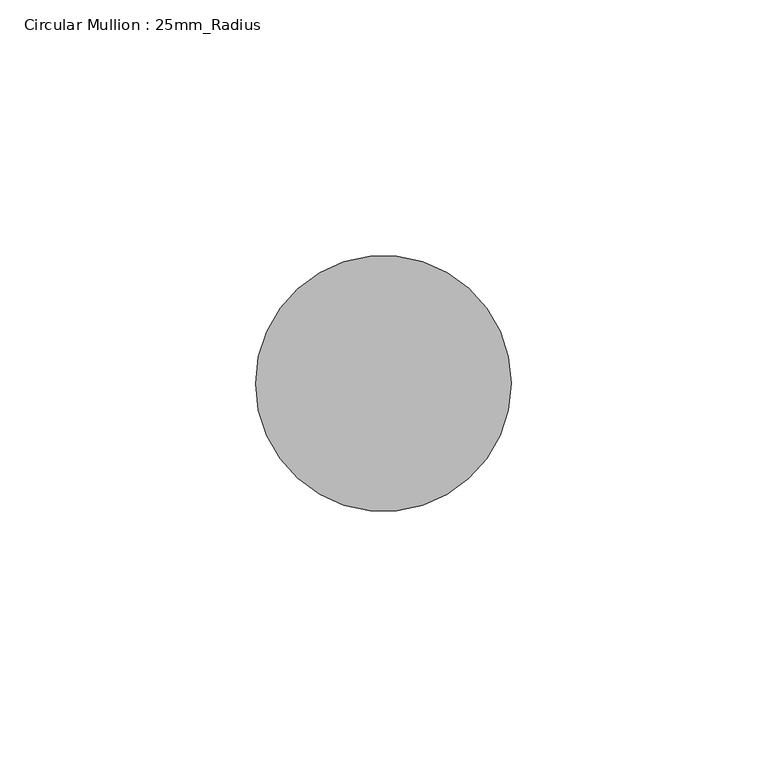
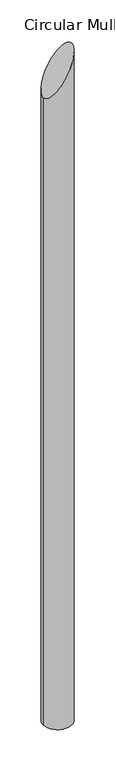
"""IFC4 building model written with IfcOpenShell, lengths in millimetres: member geometry, Circular Mullion : 25mm_Radius."""

import ifcopenshell
import ifcopenshell.guid

model = None  # the IFC model being written
_history = None  # IfcOwnerHistory: only IFC2X3 demands one
_inside = {}  # id of a spatial element -> (the spatial element, [elements in it])
_under = {}  # id of a project, library or spatial element -> (it, [spatial elements below it])
_declared = {}  # id of a project -> (the project, [libraries it declares])
_typed = {}  # id of a type object -> (the type object, [elements of that type])
_made_of = {}  # id of a material, layer set ... -> (it, [elements and type objects made of it])


def new_model(schema):
    """Start an empty IFC model of exactly this schema.

    Asked for "IFC4X3", IfcOpenShell would pick the latest addendum, in which some entities
    have other attributes; the version numbers below select the first issue.
    IFC2X3 requires an IfcOwnerHistory on every rooted entity: one is made here for all.
    """
    global model, _history
    if schema == "IFC4X3":
        model = ifcopenshell.file(schema_version=(4, 3, 0, 0))
    else:
        model = ifcopenshell.file(schema=schema)
    _inside.clear()
    _under.clear()
    _declared.clear()
    _typed.clear()
    _made_of.clear()
    _history = None
    if model.schema == "IFC2X3":
        org = make("IfcOrganization", Name="unknown")
        user = make(
            "IfcPersonAndOrganization",
            ThePerson=make("IfcPerson", FamilyName="unknown"),
            TheOrganization=org,
        )
        app = make(
            "IfcApplication",
            ApplicationDeveloper=org,
            Version="unknown",
            ApplicationFullName="unknown",
            ApplicationIdentifier="unknown",
        )
        _history = make(
            "IfcOwnerHistory",
            OwningUser=user,
            OwningApplication=app,
            ChangeAction="ADDED",
            CreationDate=0,
        )
    return model


def make(cls, **values):
    """One entity of the class cls with the attributes given. An attribute that is None is left unset."""
    return model.create_entity(
        cls, **{name: value for name, value in values.items() if value is not None}
    )


def rooted(cls, **values):
    """An entity with a GlobalId (a new one), such as an element, a storey or a relation."""
    return make(cls, GlobalId=ifcopenshell.guid.new(), OwnerHistory=_history, **values)


def si_unit(unit_type, name, prefix=None):
    """IfcSIUnit, for example si_unit("LENGTHUNIT", "METRE", prefix="MILLI")."""
    return make("IfcSIUnit", UnitType=unit_type, Prefix=prefix, Name=name)


def assignment(units):
    """IfcUnitAssignment: the units of a project."""
    return None if units is None else make("IfcUnitAssignment", Units=units)


def point(xyz):
    """IfcCartesianPoint."""
    return None if xyz is None else make("IfcCartesianPoint", Coordinates=xyz)


def direction(xyz):
    """IfcDirection."""
    return None if xyz is None else make("IfcDirection", DirectionRatios=xyz)


def frame(location, z_axis=None, x_axis=None):
    """IfcAxis2Placement3D, a coordinate frame: its origin and axes. An axis left out is left unset."""
    return make(
        "IfcAxis2Placement3D",
        Location=point(location),
        Axis=direction(z_axis),
        RefDirection=direction(x_axis),
    )


def origin():
    """The frame at (0, 0, 0) with its axes left unset."""
    return frame((0.0, 0.0, 0.0))


def place(relative_to, where):
    """IfcLocalPlacement: puts the frame where relative to a parent placement (None: the world)."""
    return make(
        "IfcLocalPlacement", PlacementRelTo=relative_to, RelativePlacement=where
    )


def context(
    kind, dimensions, precision=None, world=None, true_north=None, identifier=None
):
    """IfcGeometricRepresentationContext, for example the 3D "Model" context."""
    return make(
        "IfcGeometricRepresentationContext",
        ContextIdentifier=identifier,
        ContextType=kind,
        CoordinateSpaceDimension=dimensions,
        Precision=precision,
        WorldCoordinateSystem=world,
        TrueNorth=true_north,
    )


def project(units=None, contexts=None):
    """IfcProject with its units and contexts."""
    return rooted(
        "IfcProject",
        Name="project",
        RepresentationContexts=contexts,
        UnitsInContext=assignment(units),
    )


def spatial(cls, under=None, at=None, **own):
    """A site, building, storey or space (cls), placed at a placement, below another one or the project."""
    s = rooted(cls, ObjectPlacement=at, **own)
    if under is not None:
        _under.setdefault(under.id(), (under, []))[1].append(s)
    return s


def circle_curve(where, radius):
    """IfcCircle in the frame where."""
    return make("IfcCircle", Position=where, Radius=radius)


def ellipse_curve(where, semi_axis1, semi_axis2):
    """IfcEllipse in the frame where."""
    return make(
        "IfcEllipse", Position=where, SemiAxis1=semi_axis1, SemiAxis2=semi_axis2
    )


def shape(context_of_items, identifier, shape_type, items):
    """IfcShapeRepresentation: the items that make up one representation, for example the "Body"."""
    return make(
        "IfcShapeRepresentation",
        ContextOfItems=context_of_items,
        RepresentationIdentifier=identifier,
        RepresentationType=shape_type,
        Items=items,
    )


def source(mapping_origin, context_of_items, identifier, shape_type, items):
    """IfcRepresentationMap: a shape defined once, which mapped items show again and again."""
    return make(
        "IfcRepresentationMap",
        MappingOrigin=mapping_origin,
        MappedRepresentation=shape(context_of_items, identifier, shape_type, items),
    )


def transform(
    local_origin,
    x_axis=None,
    y_axis=None,
    z_axis=None,
    scale=None,
    scale2=None,
    scale3=None,
    uniform=True,
):
    """IfcCartesianTransformationOperator3D, or its non-uniform kind. x_axis, y_axis, z_axis: its Axis1, 2, 3."""
    if uniform:
        return make(
            "IfcCartesianTransformationOperator3D",
            Axis1=direction(x_axis),
            Axis2=direction(y_axis),
            LocalOrigin=point(local_origin),
            Scale=scale,
            Axis3=direction(z_axis),
        )
    return make(
        "IfcCartesianTransformationOperator3DnonUniform",
        Axis1=direction(x_axis),
        Axis2=direction(y_axis),
        LocalOrigin=point(local_origin),
        Scale=scale,
        Axis3=direction(z_axis),
        Scale2=scale2,
        Scale3=scale3,
    )


def mapped(mapping_source, mapping_target):
    """IfcMappedItem: shows the shape of a source again, moved by a transform."""
    return make(
        "IfcMappedItem", MappingSource=mapping_source, MappingTarget=mapping_target
    )


def made_of(thing, what):
    """Note that an element or type object is made of a material, layer set ...; save() writes the relation."""
    if what is not None:
        _made_of.setdefault(what.id(), (what, []))[1].append(thing)
    return thing


def element(
    cls,
    number,
    at=None,
    inside=None,
    cuts=None,
    type_object=None,
    material=None,
    context=None,
    identifier="Body",
    shape_type=None,
    held_by="IfcProductDefinitionShape",
    body=None,
    shapes=None,
    **own,
):
    """One element of the class cls, such as IfcWall. Its Tag is "e" and its number.

    at: its placement. inside: the storey or other place that contains it. cuts: it is an
    opening in that element (IfcRelVoidsElement). A single representation is given by context,
    identifier, shape_type and body (its items); several are given by shapes. held_by: the class
    of the entity that holds the representations. save() writes the other relations.
    """
    e = rooted(cls, Tag="e%d" % number, ObjectPlacement=at, **own)
    if body is not None:
        shapes = [shape(context, identifier, shape_type, body)]
    if shapes is not None:
        e.Representation = make(held_by, Representations=shapes)
    if inside is not None:
        _inside.setdefault(inside.id(), (inside, []))[1].append(e)
    if cuts is not None:
        rooted(
            "IfcRelVoidsElement", RelatingBuildingElement=cuts, RelatedOpeningElement=e
        )
    if type_object is not None:
        _typed.setdefault(type_object.id(), (type_object, []))[1].append(e)
    return made_of(e, material)


def aggregate(whole, parts):
    """IfcRelAggregates: a whole, such as a stair, and the parts it consists of."""
    return rooted("IfcRelAggregates", RelatingObject=whole, RelatedObjects=parts)


def save(model, path):
    """Write the relations noted so far, then the file.

    IfcRelAggregates (storeys below a building ...), IfcRelContainedInSpatialStructure (elements
    in a storey), IfcRelDefinesByType, IfcRelAssociatesMaterial and IfcRelDeclares: one each for
    every whole, place, type object, material and project.
    """
    for whole, parts in _under.values():
        aggregate(whole, parts)
    for where, things in _inside.values():
        rooted(
            "IfcRelContainedInSpatialStructure",
            RelatedElements=things,
            RelatingStructure=where,
        )
    for kind, things in _typed.values():
        rooted("IfcRelDefinesByType", RelatedObjects=things, RelatingType=kind)
    for what, things in _made_of.values():
        rooted("IfcRelAssociatesMaterial", RelatedObjects=things, RelatingMaterial=what)
    for by, libraries in _declared.values():
        rooted("IfcRelDeclares", RelatingContext=by, RelatedDefinitions=libraries)
    model.write(path)


def plane_surface(at):
    """IfcPlane: the flat surface through the origin of the frame at, square to its z axis."""
    return make("IfcPlane", Position=at)


def cylinder_surface(at, radius):
    """IfcCylindricalSurface: all points at the distance radius from the z axis of the frame at."""
    return make("IfcCylindricalSurface", Position=at, Radius=radius)


def advanced_brep(points, edges, surfaces, faces):
    """IfcAdvancedBrep: a solid bounded by faces that lie on surfaces and meet in shared edges.

    An edge is (start, end): straight between two places in points (the first is 0);
    or (start, end, curve); or (start, end, curve, False) where it runs against its curve.
    A face is (place in surfaces, loops), or (place, loops, False) where it looks against
    its surface's normal. A loop lists edges by number (the first is 1), with a minus sign
    where the edge is run from its end to its start. The first loop is the outer one.
    """
    corners = [point(p) for p in points]
    vertices = [make("IfcVertexPoint", VertexGeometry=c) for c in corners]
    made = []
    for start, end, *more in edges:
        made.append(
            make(
                "IfcEdgeCurve",
                EdgeStart=vertices[start],
                EdgeEnd=vertices[end],
                EdgeGeometry=more[0] if more else make("IfcPolyline", Points=[corners[start], corners[end]]),
                SameSense=more[1] if len(more) > 1 else True,
            )
        )
    hull = []
    for where, loops, *sense in faces:
        bounds = []
        for j, loop in enumerate(loops):
            ring = [make("IfcOrientedEdge", EdgeElement=made[abs(k) - 1], Orientation=k > 0) for k in loop]
            bounds.append(
                make(
                    "IfcFaceOuterBound" if j == 0 else "IfcFaceBound",
                    Bound=make("IfcEdgeLoop", EdgeList=ring),
                    Orientation=True,
                )
            )
        hull.append(make("IfcAdvancedFace", Bounds=bounds, FaceSurface=surfaces[where], SameSense=sense[0] if sense else True))
    return make("IfcAdvancedBrep", Outer=make("IfcClosedShell", CfsFaces=hull))


def circular_mullion_25mm_radius_b6b07fd0(model_context):
    return source(origin(), model_context, "Body", "AdvancedBrep", [
        advanced_brep(
        [(-50.0, 0.0, -82.2998157), (0.0, 0.0, 0.0), (0.0, 0.0, -1230.8022634), (-50.0, 0.0, -1230.8022634)],
        [
            (0, 1, ellipse_curve(frame((-25.0, 0.0, -41.1499078), z_axis=(0.8546388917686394, 0.0, -0.5192228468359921), x_axis=(0.5192228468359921, 0.0, 0.8546388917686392)), 48.1488828, 25.0)),
            (1, 2),
            (2, 3, circle_curve(frame((-25.0, 0.0, -1230.8022634), z_axis=(0.0, 0.0, 1.0), x_axis=(1.0, 0.0, 0.0)), 25.0)),
            (3, 0),
            (1, 0, ellipse_curve(frame((-25.0, 0.0, -41.1499078), z_axis=(0.8546388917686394, 0.0, -0.5192228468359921), x_axis=(0.5192228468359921, 0.0, 0.8546388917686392)), 48.1488828, 25.0)),
            (3, 2, circle_curve(frame((-25.0, 0.0, -1230.8022634), z_axis=(0.0, 0.0, 1.0), x_axis=(1.0, 0.0, 0.0)), 25.0)),
        ],
        [
            cylinder_surface(frame((-25.0, 0.0, 0.0), z_axis=(0.0, 0.0, 1.0), x_axis=(1.0, 0.0, 0.0)), 25.0),
            plane_surface(frame((0.0, -304.8, 0.0), z_axis=(-0.8546388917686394, 0.0, 0.5192228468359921), x_axis=(-0.5192228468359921, 0.0, -0.8546388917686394))),
            plane_surface(frame((-304.8, 0.0, -1230.8022634), z_axis=(0.0, 0.0, -1.0), x_axis=(0.0, 1.0, 0.0))),
        ],
        [
            (0, [[1, 2, 3, 4]]),
            (0, [[5, -4, 6, -2]]),
            (1, [[-1, -5]]),
            (2, [[-6, -3]]),
        ],
    ),
    ])


if __name__ == "__main__":
    model = new_model("IFC4")
    model_context = context("Model", 3, world=origin())
    ifc_project = project(units=[si_unit("LENGTHUNIT", "METRE", prefix="MILLI")], contexts=[model_context])
    site = spatial("IfcSite", under=ifc_project)
    building = spatial("IfcBuilding", under=site)
    placement = place(None, origin())
    circular_mullion_25mm_radius_shape = circular_mullion_25mm_radius_b6b07fd0(model_context)
    element("IfcMember", 1, ObjectType="Circular Mullion : 25mm_Radius", at=placement, inside=building, context=model_context, shape_type="MappedRepresentation", body=[
        mapped(circular_mullion_25mm_radius_shape, transform((0.0, 0.0, 0.0), x_axis=(1.0, 0.0, 0.0), y_axis=(0.0, 1.0, 0.0), z_axis=(0.0, 0.0, 1.0))),
    ])
    save(model, "model.ifc")
